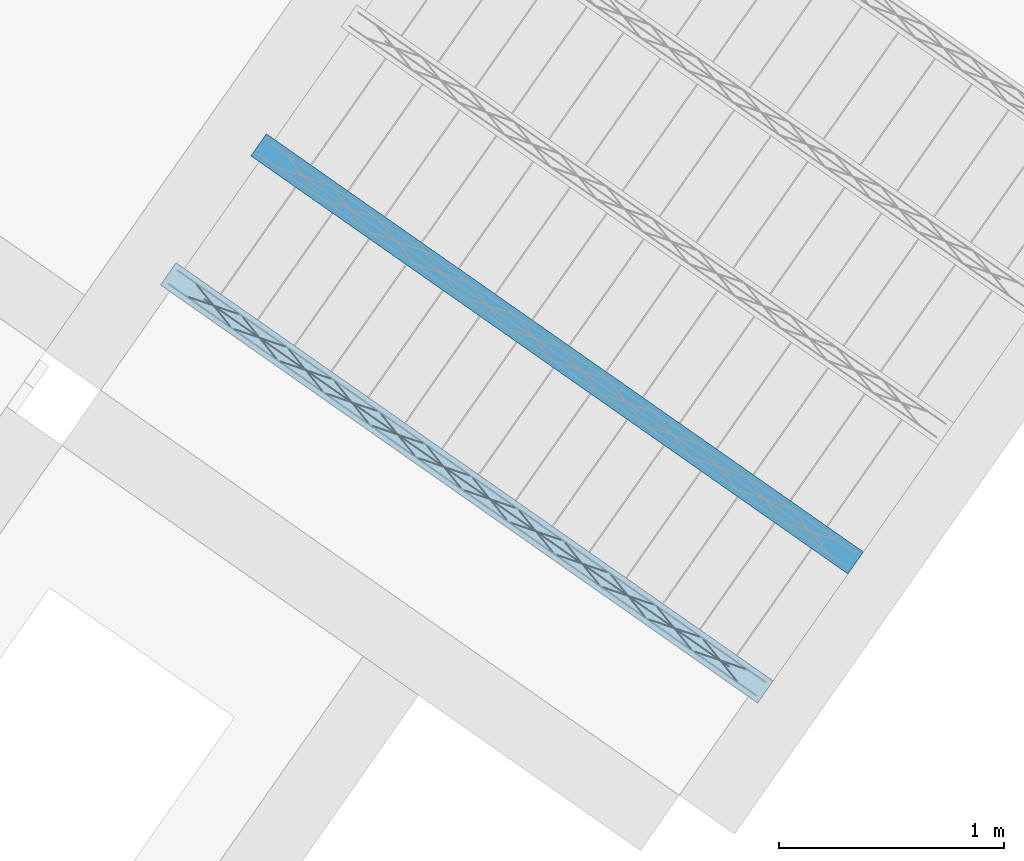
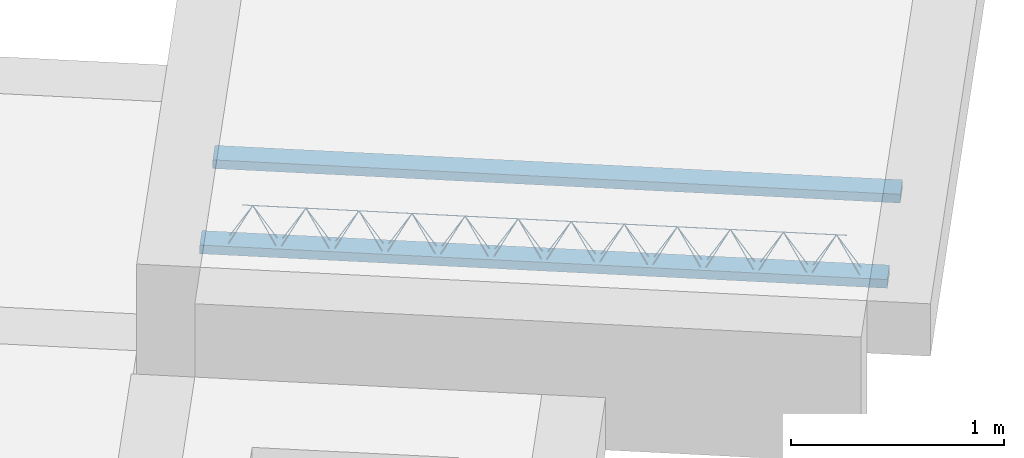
# One storey, part 20 of 46: 2 beams.
"""IFC2X3 building model written with IfcOpenShell, lengths in metres."""

import ifcopenshell
import ifcopenshell.guid

model = None  # the IFC model being written
_history = None  # IfcOwnerHistory: only IFC2X3 demands one
_inside = {}  # id of a spatial element -> (the spatial element, [elements in it])
_under = {}  # id of a project, library or spatial element -> (it, [spatial elements below it])
_declared = {}  # id of a project -> (the project, [libraries it declares])
_typed = {}  # id of a type object -> (the type object, [elements of that type])
_made_of = {}  # id of a material, layer set ... -> (it, [elements and type objects made of it])


def new_model(schema):
    """Start an empty IFC model of exactly this schema.

    Asked for "IFC4X3", IfcOpenShell would pick the latest addendum, in which some entities
    have other attributes; the version numbers below select the first issue.
    IFC2X3 requires an IfcOwnerHistory on every rooted entity: one is made here for all.
    """
    global model, _history
    if schema == "IFC4X3":
        model = ifcopenshell.file(schema_version=(4, 3, 0, 0))
    else:
        model = ifcopenshell.file(schema=schema)
    _inside.clear()
    _under.clear()
    _declared.clear()
    _typed.clear()
    _made_of.clear()
    _history = None
    if model.schema == "IFC2X3":
        org = make("IfcOrganization", Name="unknown")
        user = make(
            "IfcPersonAndOrganization",
            ThePerson=make("IfcPerson", FamilyName="unknown"),
            TheOrganization=org,
        )
        app = make(
            "IfcApplication",
            ApplicationDeveloper=org,
            Version="unknown",
            ApplicationFullName="unknown",
            ApplicationIdentifier="unknown",
        )
        _history = make(
            "IfcOwnerHistory",
            OwningUser=user,
            OwningApplication=app,
            ChangeAction="ADDED",
            CreationDate=0,
        )
    return model


def make(cls, **values):
    """One entity of the class cls with the attributes given. An attribute that is None is left unset."""
    return model.create_entity(
        cls, **{name: value for name, value in values.items() if value is not None}
    )


def entity(cls, *values):
    """Any entity or typed value of the class cls, its attributes in the order of the schema. None: left unset."""
    e = model.create_entity(cls)
    for i, value in enumerate(values):
        if value is not None:
            e[i] = value
    return e


def rooted(cls, **values):
    """An entity with a GlobalId (a new one), such as an element, a storey or a relation."""
    return make(cls, GlobalId=ifcopenshell.guid.new(), OwnerHistory=_history, **values)


def si_unit(unit_type, name, prefix=None):
    """IfcSIUnit, for example si_unit("LENGTHUNIT", "METRE", prefix="MILLI")."""
    return make("IfcSIUnit", UnitType=unit_type, Prefix=prefix, Name=name)


def converted_unit(unit_type, name, factor, base, dimensions=None, offset=None):
    """IfcConversionBasedUnit, such as the inch: factor (a typed value) times the base unit."""
    return make(
        "IfcConversionBasedUnit"
        if offset is None
        else "IfcConversionBasedUnitWithOffset",
        ConversionOffset=offset,
        Dimensions=None
        if dimensions is None
        else entity("IfcDimensionalExponents", *dimensions),
        UnitType=unit_type,
        Name=name,
        ConversionFactor=make(
            "IfcMeasureWithUnit", ValueComponent=factor, UnitComponent=base
        ),
    )


def derived_unit(unit_type, elements):
    """IfcDerivedUnit: a product of units, each with its exponent."""
    return make(
        "IfcDerivedUnit",
        Elements=[
            make("IfcDerivedUnitElement", Unit=unit, Exponent=power)
            for unit, power in elements
        ],
        UnitType=unit_type,
    )


def assignment(units):
    """IfcUnitAssignment: the units of a project."""
    return None if units is None else make("IfcUnitAssignment", Units=units)


def point(xyz):
    """IfcCartesianPoint."""
    return None if xyz is None else make("IfcCartesianPoint", Coordinates=xyz)


def direction(xyz):
    """IfcDirection."""
    return None if xyz is None else make("IfcDirection", DirectionRatios=xyz)


def frame(location, z_axis=None, x_axis=None):
    """IfcAxis2Placement3D, a coordinate frame: its origin and axes. An axis left out is left unset."""
    return make(
        "IfcAxis2Placement3D",
        Location=point(location),
        Axis=direction(z_axis),
        RefDirection=direction(x_axis),
    )


def frame_2d(location, x_axis=None):
    """IfcAxis2Placement2D, a coordinate frame in the plane: its origin and x axis."""
    return make(
        "IfcAxis2Placement2D", Location=point(location), RefDirection=direction(x_axis)
    )


def origin():
    """The frame at (0, 0, 0) with its axes left unset."""
    return frame((0.0, 0.0, 0.0))


def origin_2d_with_axis():
    """The frame at (0, 0) in the plane with the x axis (1, 0) written out."""
    return frame_2d((0.0, 0.0), x_axis=(1.0, 0.0))


def place(relative_to, where):
    """IfcLocalPlacement: puts the frame where relative to a parent placement (None: the world)."""
    return make(
        "IfcLocalPlacement", PlacementRelTo=relative_to, RelativePlacement=where
    )


def context(
    kind, dimensions, precision=None, world=None, true_north=None, identifier=None
):
    """IfcGeometricRepresentationContext, for example the 3D "Model" context."""
    return make(
        "IfcGeometricRepresentationContext",
        ContextIdentifier=identifier,
        ContextType=kind,
        CoordinateSpaceDimension=dimensions,
        Precision=precision,
        WorldCoordinateSystem=world,
        TrueNorth=true_north,
    )


def subcontext(parent, identifier, kind, view, scale=None):
    """IfcGeometricRepresentationSubContext, for example "Body" below "Model"."""
    return make(
        "IfcGeometricRepresentationSubContext",
        ContextIdentifier=identifier,
        ContextType=kind,
        ParentContext=parent,
        TargetScale=scale,
        TargetView=view,
    )


def project(units=None, contexts=None):
    """IfcProject with its units and contexts."""
    return rooted(
        "IfcProject",
        Name="project",
        RepresentationContexts=contexts,
        UnitsInContext=assignment(units),
    )


def spatial(cls, under=None, at=None, **own):
    """A site, building, storey or space (cls), placed at a placement, below another one or the project."""
    s = rooted(cls, ObjectPlacement=at, **own)
    if under is not None:
        _under.setdefault(under.id(), (under, []))[1].append(s)
    return s


def profile(cls, at=None, kind="AREA", **sizes):
    """A parametric profile (cls). Its sizes go by their IFC names, for example OverallWidth=200.0."""
    return make(cls, ProfileType=kind, Position=at, **sizes)


def rectangle(**sizes):
    """IfcRectangleProfileDef."""
    return profile("IfcRectangleProfileDef", **sizes)


def circle(**sizes):
    """IfcCircleProfileDef."""
    return profile("IfcCircleProfileDef", **sizes)


def extrude(swept, where, along, depth):
    """IfcExtrudedAreaSolid: the profile swept, set in the frame where, extruded along a direction by depth."""
    return make(
        "IfcExtrudedAreaSolid",
        SweptArea=swept,
        Position=where,
        ExtrudedDirection=direction(along),
        Depth=depth,
    )


def shape(context_of_items, identifier, shape_type, items):
    """IfcShapeRepresentation: the items that make up one representation, for example the "Body"."""
    return make(
        "IfcShapeRepresentation",
        ContextOfItems=context_of_items,
        RepresentationIdentifier=identifier,
        RepresentationType=shape_type,
        Items=items,
    )


def material(Name=None, Category=None):
    """IfcMaterial."""
    return make("IfcMaterial", Name=Name, Category=Category)


def made_of(thing, what):
    """Note that an element or type object is made of a material, layer set ...; save() writes the relation."""
    if what is not None:
        _made_of.setdefault(what.id(), (what, []))[1].append(thing)
    return thing


def type_object(cls, material=None, **own):
    """A type object (cls), such as IfcWallType, which elements share."""
    return made_of(rooted(cls, **own), material)


def element(
    cls,
    number,
    at=None,
    inside=None,
    cuts=None,
    type_object=None,
    material=None,
    context=None,
    identifier="Body",
    shape_type=None,
    held_by="IfcProductDefinitionShape",
    body=None,
    shapes=None,
    **own,
):
    """One element of the class cls, such as IfcWall. Its Tag is "e" and its number.

    at: its placement. inside: the storey or other place that contains it. cuts: it is an
    opening in that element (IfcRelVoidsElement). A single representation is given by context,
    identifier, shape_type and body (its items); several are given by shapes. held_by: the class
    of the entity that holds the representations. save() writes the other relations.
    """
    e = rooted(cls, Tag="e%d" % number, ObjectPlacement=at, **own)
    if body is not None:
        shapes = [shape(context, identifier, shape_type, body)]
    if shapes is not None:
        e.Representation = make(held_by, Representations=shapes)
    if inside is not None:
        _inside.setdefault(inside.id(), (inside, []))[1].append(e)
    if cuts is not None:
        rooted(
            "IfcRelVoidsElement", RelatingBuildingElement=cuts, RelatedOpeningElement=e
        )
    if type_object is not None:
        _typed.setdefault(type_object.id(), (type_object, []))[1].append(e)
    return made_of(e, material)


def aggregate(whole, parts):
    """IfcRelAggregates: a whole, such as a stair, and the parts it consists of."""
    return rooted("IfcRelAggregates", RelatingObject=whole, RelatedObjects=parts)


def save(model, path):
    """Write the relations noted so far, then the file.

    IfcRelAggregates (storeys below a building ...), IfcRelContainedInSpatialStructure (elements
    in a storey), IfcRelDefinesByType, IfcRelAssociatesMaterial and IfcRelDeclares: one each for
    every whole, place, type object, material and project.
    """
    for whole, parts in _under.values():
        aggregate(whole, parts)
    for where, things in _inside.values():
        rooted(
            "IfcRelContainedInSpatialStructure",
            RelatedElements=things,
            RelatingStructure=where,
        )
    for kind, things in _typed.values():
        rooted("IfcRelDefinesByType", RelatedObjects=things, RelatingType=kind)
    for what, things in _made_of.values():
        rooted("IfcRelAssociatesMaterial", RelatedObjects=things, RelatingMaterial=what)
    for by, libraries in _declared.values():
        rooted("IfcRelDeclares", RelatingContext=by, RelatedDefinitions=libraries)
    model.write(path)


model = new_model("IFC2X3")

# Units and contexts
model_context = context("Model", 3, precision=1e-05, world=origin(), true_north=direction((6.123031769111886e-17, 1.0)))
body_context = subcontext(model_context, "Body", "Model", "MODEL_VIEW")
ifc_project = project(units=[si_unit("LENGTHUNIT", "METRE"), si_unit("AREAUNIT", "SQUARE_METRE"), si_unit("VOLUMEUNIT", "CUBIC_METRE"), converted_unit("PLANEANGLEUNIT", "DEGREE", entity("IfcPlaneAngleMeasure", 0.017453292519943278), si_unit("PLANEANGLEUNIT", "RADIAN"), dimensions=[0, 0, 0, 0, 0, 0, 0]), si_unit("MASSUNIT", "GRAM", prefix="KILO"), derived_unit("MASSDENSITYUNIT", [(si_unit("MASSUNIT", "GRAM", prefix="KILO"), 1), (si_unit("LENGTHUNIT", "METRE"), -3)]), derived_unit("IONCONCENTRATIONUNIT", [(si_unit("MASSUNIT", "GRAM", prefix="KILO"), 1), (si_unit("LENGTHUNIT", "METRE"), -3)]), derived_unit("MOMENTOFINERTIAUNIT", [(si_unit("LENGTHUNIT", "METRE"), 4)]), si_unit("TIMEUNIT", "SECOND"), si_unit("FREQUENCYUNIT", "HERTZ"), si_unit("THERMODYNAMICTEMPERATUREUNIT", "DEGREE_CELSIUS"), derived_unit("THERMALTRANSMITTANCEUNIT", [(si_unit("MASSUNIT", "GRAM", prefix="KILO"), 1), (si_unit("THERMODYNAMICTEMPERATUREUNIT", "KELVIN"), -1), (si_unit("TIMEUNIT", "SECOND"), -3)]), derived_unit("THERMALCONDUCTANCEUNIT", [(si_unit("MASSUNIT", "GRAM", prefix="KILO"), 1), (si_unit("THERMODYNAMICTEMPERATUREUNIT", "KELVIN"), -1), (si_unit("TIMEUNIT", "SECOND"), -3), (si_unit("LENGTHUNIT", "METRE"), 1)]), derived_unit("VOLUMETRICFLOWRATEUNIT", [(si_unit("LENGTHUNIT", "METRE", prefix="DECI"), 3), (si_unit("TIMEUNIT", "SECOND"), -1)]), derived_unit("MASSFLOWRATEUNIT", [(si_unit("MASSUNIT", "GRAM", prefix="KILO"), 1), (si_unit("TIMEUNIT", "SECOND"), -1)]), derived_unit("ROTATIONALFREQUENCYUNIT", [(si_unit("TIMEUNIT", "SECOND"), -1)]), si_unit("ELECTRICCURRENTUNIT", "AMPERE"), si_unit("ELECTRICVOLTAGEUNIT", "VOLT"), si_unit("POWERUNIT", "WATT"), si_unit("FORCEUNIT", "NEWTON", prefix="KILO"), si_unit("ILLUMINANCEUNIT", "LUX"), si_unit("LUMINOUSFLUXUNIT", "LUMEN"), si_unit("LUMINOUSINTENSITYUNIT", "CANDELA"), si_unit("ENERGYUNIT", "JOULE"), derived_unit("USERDEFINED", [(si_unit("MASSUNIT", "GRAM", prefix="KILO"), -1), (si_unit("LENGTHUNIT", "METRE"), -2), (si_unit("TIMEUNIT", "SECOND"), 3), (si_unit("LUMINOUSFLUXUNIT", "LUMEN"), 1)]), derived_unit("USERDEFINED", [(si_unit("MASSUNIT", "GRAM", prefix="KILO"), 1), (si_unit("TIMEUNIT", "SECOND"), -3), (si_unit("LENGTHUNIT", "METRE"), 3), (si_unit("ELECTRICCURRENTUNIT", "AMPERE"), -2)]), derived_unit("SOUNDPOWERUNIT", [(si_unit("MASSUNIT", "GRAM", prefix="KILO"), 1), (si_unit("TIMEUNIT", "SECOND"), -3), (si_unit("LENGTHUNIT", "METRE"), 2)]), derived_unit("SOUNDPRESSUREUNIT", [(si_unit("MASSUNIT", "GRAM", prefix="KILO"), 1), (si_unit("LENGTHUNIT", "METRE"), -1), (si_unit("TIMEUNIT", "SECOND"), -2)]), derived_unit("LINEARVELOCITYUNIT", [(si_unit("LENGTHUNIT", "METRE"), 1), (si_unit("TIMEUNIT", "SECOND"), -1)]), si_unit("PRESSUREUNIT", "PASCAL"), derived_unit("USERDEFINED", [(si_unit("MASSUNIT", "GRAM", prefix="KILO"), 1), (si_unit("LENGTHUNIT", "METRE"), -2), (si_unit("TIMEUNIT", "SECOND"), -2)]), derived_unit("LINEARFORCEUNIT", [(si_unit("MASSUNIT", "GRAM", prefix="KILO"), 1), (si_unit("TIMEUNIT", "SECOND"), -2)]), derived_unit("PLANARFORCEUNIT", [(si_unit("MASSUNIT", "GRAM", prefix="KILO"), 1), (si_unit("LENGTHUNIT", "METRE"), -1), (si_unit("TIMEUNIT", "SECOND"), -2)]), derived_unit("SPECIFICHEATCAPACITYUNIT", [(si_unit("THERMODYNAMICTEMPERATUREUNIT", "KELVIN"), -1), (si_unit("LENGTHUNIT", "METRE"), 2), (si_unit("TIMEUNIT", "SECOND"), -2)]), derived_unit("HEATFLUXDENSITYUNIT", [(si_unit("MASSUNIT", "GRAM", prefix="KILO"), 1), (si_unit("TIMEUNIT", "SECOND"), -3)]), derived_unit("HEATINGVALUEUNIT", [(si_unit("LENGTHUNIT", "METRE"), 2), (si_unit("TIMEUNIT", "SECOND"), -2)]), derived_unit("VAPORPERMEABILITYUNIT", [(si_unit("LENGTHUNIT", "METRE"), -1), (si_unit("TIMEUNIT", "SECOND"), 1)]), derived_unit("DYNAMICVISCOSITYUNIT", [(si_unit("MASSUNIT", "GRAM", prefix="KILO"), 1), (si_unit("TIMEUNIT", "SECOND"), -1), (si_unit("LENGTHUNIT", "METRE"), -1)]), derived_unit("THERMALEXPANSIONCOEFFICIENTUNIT", [(si_unit("THERMODYNAMICTEMPERATUREUNIT", "KELVIN"), -1)]), derived_unit("MODULUSOFELASTICITYUNIT", [(si_unit("MASSUNIT", "GRAM", prefix="KILO"), 1), (si_unit("LENGTHUNIT", "METRE"), -1), (si_unit("TIMEUNIT", "SECOND"), -2)]), derived_unit("ISOTHERMALMOISTURECAPACITYUNIT", [(si_unit("MASSUNIT", "GRAM", prefix="KILO"), -1), (si_unit("LENGTHUNIT", "METRE"), 3)]), derived_unit("MOISTUREDIFFUSIVITYUNIT", [(si_unit("TIMEUNIT", "SECOND"), -1), (si_unit("LENGTHUNIT", "METRE"), 2)]), derived_unit("MASSPERLENGTHUNIT", [(si_unit("MASSUNIT", "GRAM", prefix="KILO"), 1), (si_unit("LENGTHUNIT", "METRE"), -1)]), derived_unit("THERMALRESISTANCEUNIT", [(si_unit("MASSUNIT", "GRAM", prefix="KILO"), -1), (si_unit("TIMEUNIT", "SECOND"), 3), (si_unit("THERMODYNAMICTEMPERATUREUNIT", "KELVIN"), 1)]), derived_unit("ACCELERATIONUNIT", [(si_unit("LENGTHUNIT", "METRE"), 1), (si_unit("TIMEUNIT", "SECOND"), -2)]), derived_unit("ANGULARVELOCITYUNIT", [(si_unit("TIMEUNIT", "SECOND"), -1), (si_unit("PLANEANGLEUNIT", "RADIAN"), 1)]), derived_unit("LINEARSTIFFNESSUNIT", [(si_unit("MASSUNIT", "GRAM", prefix="KILO"), 1), (si_unit("TIMEUNIT", "SECOND"), -2)]), derived_unit("WARPINGCONSTANTUNIT", [(si_unit("LENGTHUNIT", "METRE"), 6)]), derived_unit("LINEARMOMENTUNIT", [(si_unit("MASSUNIT", "GRAM", prefix="KILO"), 1), (si_unit("LENGTHUNIT", "METRE"), 1), (si_unit("TIMEUNIT", "SECOND"), -2)]), derived_unit("TORQUEUNIT", [(si_unit("MASSUNIT", "GRAM", prefix="KILO"), 1), (si_unit("LENGTHUNIT", "METRE"), 2), (si_unit("TIMEUNIT", "SECOND"), -2)])], contexts=[model_context])

# Site, building, storey
site_placement = place(None, origin())
site = spatial("IfcSite", under=ifc_project, at=site_placement, Name="Default", CompositionType="ELEMENT")
building_placement = place(site_placement, origin())
building = spatial("IfcBuilding", under=site, at=building_placement, CompositionType="ELEMENT")
storey_placement = place(building_placement, frame((0.0, 0.0, 99.52000000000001)))
storey = spatial("IfcBuildingStorey", under=building, at=storey_placement, Name="F1", CompositionType="ELEMENT", Elevation=99.52000000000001)

# Beams
beam_type = type_object("IfcBeamType", Name="Vigueta 1 (Paño 3) (Mf = 14.41)", PredefinedType="JOIST")
beam_1_placement = place(storey_placement, origin())
element("IfcBeam", 1, at=beam_1_placement, inside=storey, type_object=beam_type, Name="Vigueta 1 (Paño 3) (Mf = 14.41)", ObjectType="Mf = 14.41", context=body_context, shape_type="SweptSolid", body=[
    extrude(rectangle(XDim=3.240000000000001, YDim=0.12000000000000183, at=frame_2d((1.1102230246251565e-16, -2.0122792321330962e-16), x_axis=(1.0, 0.0))), frame((11.804998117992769, 3.8811029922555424, 0.2000000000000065), z_axis=(0.0, 0.0, 1.0), x_axis=(0.8191520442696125, -0.5735764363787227, 0.0)), (0.0, 0.0, 1.0), 0.04999999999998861),
    extrude(circle(Radius=0.0025, at=origin_2d_with_axis()), frame((13.091716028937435, 2.9361855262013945, 0.22500000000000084), z_axis=(-0.8191520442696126, 0.5735764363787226, 0.0), x_axis=(-0.5735764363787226, -0.8191520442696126, 0.0)), (0.0, 0.0, 1.0), 3.191999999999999),
    extrude(circle(Radius=0.0025, at=origin_2d_with_axis()), frame((10.637706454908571, 4.69844941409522, 0.4500000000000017), z_axis=(0.8191520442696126, -0.5735764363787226, 0.0), x_axis=(-0.5735764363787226, -0.8191520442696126, 0.0)), (0.0, 0.0, 1.0), 2.849999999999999),
    extrude(circle(Radius=0.0025, at=origin_2d_with_axis()), frame((13.013077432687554, 2.991248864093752, 0.22500000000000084), z_axis=(-0.3145304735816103, 0.389334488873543, 0.8657304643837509), x_axis=(-0.7778747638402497, -0.6284193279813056, 0.0)), (0.0, 0.0, 1.0), 0.2598961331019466),
    extrude(circle(Radius=0.0025, at=origin_2d_with_axis()), frame((12.808289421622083, 3.1346429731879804, 0.22499999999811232), z_axis=(0.47343050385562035, -0.1624017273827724, 0.8657304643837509), x_axis=(-0.3244721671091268, -0.9458952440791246, 0.0)), (0.0, 0.0, 1.0), 0.25989613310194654),
    extrude(circle(Radius=0.0025, at=origin_2d_with_axis()), frame((12.80828942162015, 3.134642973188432, 0.22500000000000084), z_axis=(-0.3145304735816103, 0.389334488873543, 0.8657304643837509), x_axis=(-0.7778747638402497, -0.6284193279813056, 0.0)), (0.0, 0.0, 1.0), 0.2598961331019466),
    extrude(circle(Radius=0.0025, at=origin_2d_with_axis()), frame((12.603501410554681, 3.2780370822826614, 0.22499999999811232), z_axis=(0.47343050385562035, -0.1624017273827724, 0.8657304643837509), x_axis=(-0.3244721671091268, -0.9458952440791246, 0.0)), (0.0, 0.0, 1.0), 0.25989613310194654),
    extrude(circle(Radius=0.0025, at=origin_2d_with_axis()), frame((12.603501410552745, 3.278037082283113, 0.22500000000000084), z_axis=(-0.3145304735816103, 0.389334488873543, 0.8657304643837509), x_axis=(-0.7778747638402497, -0.6284193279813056, 0.0)), (0.0, 0.0, 1.0), 0.2598961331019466),
    extrude(circle(Radius=0.0025, at=origin_2d_with_axis()), frame((12.398713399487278, 3.4214311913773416, 0.22499999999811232), z_axis=(0.47343050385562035, -0.1624017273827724, 0.8657304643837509), x_axis=(-0.3244721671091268, -0.9458952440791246, 0.0)), (0.0, 0.0, 1.0), 0.25989613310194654),
    extrude(circle(Radius=0.0025, at=origin_2d_with_axis()), frame((12.398713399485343, 3.4214311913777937, 0.22500000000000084), z_axis=(-0.3145304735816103, 0.389334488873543, 0.8657304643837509), x_axis=(-0.7778747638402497, -0.6284193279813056, 0.0)), (0.0, 0.0, 1.0), 0.2598961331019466),
    extrude(circle(Radius=0.0025, at=origin_2d_with_axis()), frame((12.193925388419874, 3.5648253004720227, 0.22499999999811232), z_axis=(0.47343050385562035, -0.1624017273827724, 0.8657304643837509), x_axis=(-0.3244721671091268, -0.9458952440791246, 0.0)), (0.0, 0.0, 1.0), 0.25989613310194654),
    extrude(circle(Radius=0.0025, at=origin_2d_with_axis()), frame((12.19392538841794, 3.564825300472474, 0.22500000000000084), z_axis=(-0.3145304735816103, 0.389334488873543, 0.8657304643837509), x_axis=(-0.7778747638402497, -0.6284193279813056, 0.0)), (0.0, 0.0, 1.0), 0.2598961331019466),
    extrude(circle(Radius=0.0025, at=origin_2d_with_axis()), frame((11.989137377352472, 3.708219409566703, 0.22499999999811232), z_axis=(0.47343050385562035, -0.1624017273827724, 0.8657304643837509), x_axis=(-0.3244721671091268, -0.9458952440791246, 0.0)), (0.0, 0.0, 1.0), 0.25989613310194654),
    extrude(circle(Radius=0.0025, at=origin_2d_with_axis()), frame((11.989137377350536, 3.708219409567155, 0.22500000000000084), z_axis=(-0.3145304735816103, 0.389334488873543, 0.8657304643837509), x_axis=(-0.7778747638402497, -0.6284193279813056, 0.0)), (0.0, 0.0, 1.0), 0.2598961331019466),
    extrude(circle(Radius=0.0025, at=origin_2d_with_axis()), frame((11.784349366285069, 3.8516135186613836, 0.22499999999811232), z_axis=(0.47343050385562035, -0.1624017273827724, 0.8657304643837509), x_axis=(-0.3244721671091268, -0.9458952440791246, 0.0)), (0.0, 0.0, 1.0), 0.25989613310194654),
    extrude(circle(Radius=0.0025, at=origin_2d_with_axis()), frame((11.784349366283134, 3.8516135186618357, 0.22500000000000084), z_axis=(-0.3145304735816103, 0.389334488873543, 0.8657304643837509), x_axis=(-0.7778747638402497, -0.6284193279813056, 0.0)), (0.0, 0.0, 1.0), 0.2598961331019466),
    extrude(circle(Radius=0.0025, at=origin_2d_with_axis()), frame((11.579561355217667, 3.9950076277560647, 0.22499999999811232), z_axis=(0.47343050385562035, -0.1624017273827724, 0.8657304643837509), x_axis=(-0.3244721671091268, -0.9458952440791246, 0.0)), (0.0, 0.0, 1.0), 0.25989613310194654),
    extrude(circle(Radius=0.0025, at=origin_2d_with_axis()), frame((11.57956135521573, 3.9950076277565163, 0.22500000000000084), z_axis=(-0.3145304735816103, 0.389334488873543, 0.8657304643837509), x_axis=(-0.7778747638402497, -0.6284193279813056, 0.0)), (0.0, 0.0, 1.0), 0.2598961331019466),
    extrude(circle(Radius=0.0025, at=origin_2d_with_axis()), frame((11.374773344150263, 4.138401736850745, 0.22499999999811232), z_axis=(0.47343050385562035, -0.1624017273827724, 0.8657304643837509), x_axis=(-0.3244721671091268, -0.9458952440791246, 0.0)), (0.0, 0.0, 1.0), 0.25989613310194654),
    extrude(circle(Radius=0.0025, at=origin_2d_with_axis()), frame((11.374773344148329, 4.138401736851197, 0.22500000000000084), z_axis=(-0.3145304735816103, 0.389334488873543, 0.8657304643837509), x_axis=(-0.7778747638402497, -0.6284193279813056, 0.0)), (0.0, 0.0, 1.0), 0.2598961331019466),
    extrude(circle(Radius=0.0025, at=origin_2d_with_axis()), frame((11.169985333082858, 4.2817958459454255, 0.22499999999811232), z_axis=(0.47343050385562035, -0.1624017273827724, 0.8657304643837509), x_axis=(-0.3244721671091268, -0.9458952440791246, 0.0)), (0.0, 0.0, 1.0), 0.25989613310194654),
    extrude(circle(Radius=0.0025, at=origin_2d_with_axis()), frame((11.169985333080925, 4.281795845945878, 0.22500000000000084), z_axis=(-0.3145304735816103, 0.389334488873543, 0.8657304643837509), x_axis=(-0.7778747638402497, -0.6284193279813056, 0.0)), (0.0, 0.0, 1.0), 0.2598961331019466),
    extrude(circle(Radius=0.0025, at=origin_2d_with_axis()), frame((10.965197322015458, 4.425189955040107, 0.22499999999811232), z_axis=(0.47343050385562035, -0.1624017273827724, 0.8657304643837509), x_axis=(-0.3244721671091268, -0.9458952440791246, 0.0)), (0.0, 0.0, 1.0), 0.25989613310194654),
    extrude(circle(Radius=0.0025, at=origin_2d_with_axis()), frame((10.965197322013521, 4.425189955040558, 0.22500000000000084), z_axis=(-0.3145304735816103, 0.389334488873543, 0.8657304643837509), x_axis=(-0.7778747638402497, -0.6284193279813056, 0.0)), (0.0, 0.0, 1.0), 0.2598961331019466),
    extrude(circle(Radius=0.0025, at=origin_2d_with_axis()), frame((10.760409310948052, 4.568584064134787, 0.22499999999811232), z_axis=(0.47343050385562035, -0.1624017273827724, 0.8657304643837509), x_axis=(-0.3244721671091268, -0.9458952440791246, 0.0)), (0.0, 0.0, 1.0), 0.25989613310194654),
    extrude(circle(Radius=0.0025, at=origin_2d_with_axis()), frame((10.76040931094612, 4.568584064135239, 0.22500000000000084), z_axis=(-0.3145304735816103, 0.389334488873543, 0.8657304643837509), x_axis=(-0.7778747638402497, -0.6284193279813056, 0.0)), (0.0, 0.0, 1.0), 0.2598961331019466),
    extrude(circle(Radius=0.0025, at=origin_2d_with_axis()), frame((10.555621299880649, 4.711978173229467, 0.22499999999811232), z_axis=(0.47343050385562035, -0.1624017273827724, 0.8657304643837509), x_axis=(-0.3244721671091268, -0.9458952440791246, 0.0)), (0.0, 0.0, 1.0), 0.25989613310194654),
    extrude(circle(Radius=0.0025, at=origin_2d_with_axis()), frame((10.518280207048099, 4.826020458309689, 0.22500000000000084), z_axis=(0.8191520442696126, -0.5735764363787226, 0.0), x_axis=(-0.5735764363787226, -0.8191520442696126, 0.0)), (0.0, 0.0, 1.0), 3.1920000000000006),
    extrude(circle(Radius=0.0025, at=origin_2d_with_axis()), frame((13.054374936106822, 3.0502278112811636, 0.22500000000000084), z_axis=(-0.47343050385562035, 0.1624017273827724, 0.8657304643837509), x_axis=(-0.3244721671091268, -0.9458952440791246, 0.0)), (0.0, 0.0, 1.0), 0.25989613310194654),
    extrude(circle(Radius=0.0025, at=origin_2d_with_axis()), frame((12.849586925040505, 3.1936219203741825, 0.22499999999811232), z_axis=(0.3145304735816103, -0.389334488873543, 0.8657304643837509), x_axis=(-0.7778747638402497, -0.6284193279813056, 0.0)), (0.0, 0.0, 1.0), 0.2598961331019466),
    extrude(circle(Radius=0.0025, at=origin_2d_with_axis()), frame((12.849586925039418, 3.1936219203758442, 0.22500000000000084), z_axis=(-0.47343050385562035, 0.1624017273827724, 0.8657304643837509), x_axis=(-0.3244721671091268, -0.9458952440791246, 0.0)), (0.0, 0.0, 1.0), 0.25989613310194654),
    extrude(circle(Radius=0.0025, at=origin_2d_with_axis()), frame((12.644798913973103, 3.337016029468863, 0.22499999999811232), z_axis=(0.3145304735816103, -0.389334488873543, 0.8657304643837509), x_axis=(-0.7778747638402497, -0.6284193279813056, 0.0)), (0.0, 0.0, 1.0), 0.2598961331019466),
    extrude(circle(Radius=0.0025, at=origin_2d_with_axis()), frame((12.644798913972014, 3.337016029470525, 0.22500000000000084), z_axis=(-0.47343050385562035, 0.1624017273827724, 0.8657304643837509), x_axis=(-0.3244721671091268, -0.9458952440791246, 0.0)), (0.0, 0.0, 1.0), 0.25989613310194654),
    extrude(circle(Radius=0.0025, at=origin_2d_with_axis()), frame((12.4400109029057, 3.4804101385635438, 0.22499999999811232), z_axis=(0.3145304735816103, -0.389334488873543, 0.8657304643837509), x_axis=(-0.7778747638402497, -0.6284193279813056, 0.0)), (0.0, 0.0, 1.0), 0.2598961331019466),
    extrude(circle(Radius=0.0025, at=origin_2d_with_axis()), frame((12.440010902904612, 3.4804101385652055, 0.22500000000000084), z_axis=(-0.47343050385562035, 0.1624017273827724, 0.8657304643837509), x_axis=(-0.3244721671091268, -0.9458952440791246, 0.0)), (0.0, 0.0, 1.0), 0.25989613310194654),
    extrude(circle(Radius=0.0025, at=origin_2d_with_axis()), frame((12.235222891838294, 3.6238042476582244, 0.22499999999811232), z_axis=(0.3145304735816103, -0.389334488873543, 0.8657304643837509), x_axis=(-0.7778747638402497, -0.6284193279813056, 0.0)), (0.0, 0.0, 1.0), 0.2598961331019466),
    extrude(circle(Radius=0.0025, at=origin_2d_with_axis()), frame((12.235222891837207, 3.623804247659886, 0.22500000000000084), z_axis=(-0.47343050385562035, 0.1624017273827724, 0.8657304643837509), x_axis=(-0.3244721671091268, -0.9458952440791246, 0.0)), (0.0, 0.0, 1.0), 0.25989613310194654),
    extrude(circle(Radius=0.0025, at=origin_2d_with_axis()), frame((12.030434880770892, 3.7671983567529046, 0.22499999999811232), z_axis=(0.3145304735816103, -0.389334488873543, 0.8657304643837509), x_axis=(-0.7778747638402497, -0.6284193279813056, 0.0)), (0.0, 0.0, 1.0), 0.2598961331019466),
    extrude(circle(Radius=0.0025, at=origin_2d_with_axis()), frame((12.030434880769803, 3.767198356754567, 0.22500000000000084), z_axis=(-0.47343050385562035, 0.1624017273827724, 0.8657304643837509), x_axis=(-0.3244721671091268, -0.9458952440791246, 0.0)), (0.0, 0.0, 1.0), 0.25989613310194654),
    extrude(circle(Radius=0.0025, at=origin_2d_with_axis()), frame((11.825646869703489, 3.9105924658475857, 0.22499999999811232), z_axis=(0.3145304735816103, -0.389334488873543, 0.8657304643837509), x_axis=(-0.7778747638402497, -0.6284193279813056, 0.0)), (0.0, 0.0, 1.0), 0.2598961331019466),
    extrude(circle(Radius=0.0025, at=origin_2d_with_axis()), frame((11.825646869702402, 3.910592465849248, 0.22500000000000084), z_axis=(-0.47343050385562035, 0.1624017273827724, 0.8657304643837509), x_axis=(-0.3244721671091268, -0.9458952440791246, 0.0)), (0.0, 0.0, 1.0), 0.25989613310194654),
    extrude(circle(Radius=0.0025, at=origin_2d_with_axis()), frame((11.620858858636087, 4.053986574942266, 0.22499999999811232), z_axis=(0.3145304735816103, -0.389334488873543, 0.8657304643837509), x_axis=(-0.7778747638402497, -0.6284193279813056, 0.0)), (0.0, 0.0, 1.0), 0.2598961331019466),
    extrude(circle(Radius=0.0025, at=origin_2d_with_axis()), frame((11.620858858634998, 4.053986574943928, 0.22500000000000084), z_axis=(-0.47343050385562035, 0.1624017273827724, 0.8657304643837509), x_axis=(-0.3244721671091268, -0.9458952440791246, 0.0)), (0.0, 0.0, 1.0), 0.25989613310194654),
    extrude(circle(Radius=0.0025, at=origin_2d_with_axis()), frame((11.416070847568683, 4.197380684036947, 0.22499999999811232), z_axis=(0.3145304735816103, -0.389334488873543, 0.8657304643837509), x_axis=(-0.7778747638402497, -0.6284193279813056, 0.0)), (0.0, 0.0, 1.0), 0.2598961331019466),
    extrude(circle(Radius=0.0025, at=origin_2d_with_axis()), frame((11.416070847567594, 4.197380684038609, 0.22500000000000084), z_axis=(-0.47343050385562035, 0.1624017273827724, 0.8657304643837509), x_axis=(-0.3244721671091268, -0.9458952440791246, 0.0)), (0.0, 0.0, 1.0), 0.25989613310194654),
    extrude(circle(Radius=0.0025, at=origin_2d_with_axis()), frame((11.21128283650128, 4.340774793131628, 0.22499999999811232), z_axis=(0.3145304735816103, -0.389334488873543, 0.8657304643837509), x_axis=(-0.7778747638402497, -0.6284193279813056, 0.0)), (0.0, 0.0, 1.0), 0.2598961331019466),
    extrude(circle(Radius=0.0025, at=origin_2d_with_axis()), frame((11.211282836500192, 4.340774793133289, 0.22500000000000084), z_axis=(-0.47343050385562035, 0.1624017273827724, 0.8657304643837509), x_axis=(-0.3244721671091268, -0.9458952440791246, 0.0)), (0.0, 0.0, 1.0), 0.25989613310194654),
    extrude(circle(Radius=0.0025, at=origin_2d_with_axis()), frame((11.006494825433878, 4.484168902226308, 0.22499999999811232), z_axis=(0.3145304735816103, -0.389334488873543, 0.8657304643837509), x_axis=(-0.7778747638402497, -0.6284193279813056, 0.0)), (0.0, 0.0, 1.0), 0.2598961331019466),
    extrude(circle(Radius=0.0025, at=origin_2d_with_axis()), frame((11.006494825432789, 4.48416890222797, 0.22500000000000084), z_axis=(-0.47343050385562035, 0.1624017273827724, 0.8657304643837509), x_axis=(-0.3244721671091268, -0.9458952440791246, 0.0)), (0.0, 0.0, 1.0), 0.25989613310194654),
    extrude(circle(Radius=0.0025, at=origin_2d_with_axis()), frame((10.801706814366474, 4.627563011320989, 0.22499999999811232), z_axis=(0.3145304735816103, -0.389334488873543, 0.8657304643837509), x_axis=(-0.7778747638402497, -0.6284193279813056, 0.0)), (0.0, 0.0, 1.0), 0.2598961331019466),
    extrude(circle(Radius=0.0025, at=origin_2d_with_axis()), frame((10.801706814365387, 4.627563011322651, 0.22500000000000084), z_axis=(-0.47343050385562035, 0.1624017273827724, 0.8657304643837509), x_axis=(-0.3244721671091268, -0.9458952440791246, 0.0)), (0.0, 0.0, 1.0), 0.25989613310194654),
    extrude(circle(Radius=0.0025, at=origin_2d_with_axis()), frame((10.59691880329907, 4.770957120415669, 0.22499999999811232), z_axis=(0.3145304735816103, -0.389334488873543, 0.8657304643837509), x_axis=(-0.7778747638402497, -0.6284193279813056, 0.0)), (0.0, 0.0, 1.0), 0.2598961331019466),
])
ifc_material = material(Name="Hormigón armado")
beam_2_placement = place(storey_placement, origin())
element("IfcBeam", 2, at=beam_2_placement, inside=storey, material=ifc_material, Name="238199", context=body_context, shape_type="SweptSolid", body=[
    extrude(rectangle(XDim=0.04999999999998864, YDim=0.12000000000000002, at=frame_2d((0.0, -1.0651202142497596e-15), x_axis=(1.0, 0.0))), frame((10.879475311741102, 5.383703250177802, 0.22500000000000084), z_axis=(0.8191520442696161, -0.5735764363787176, 0.0), x_axis=(0.0, 0.0, -1.0)), (0.0, 0.0, 1.0), 3.2399999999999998),
])

save(model, "model.ifc")
